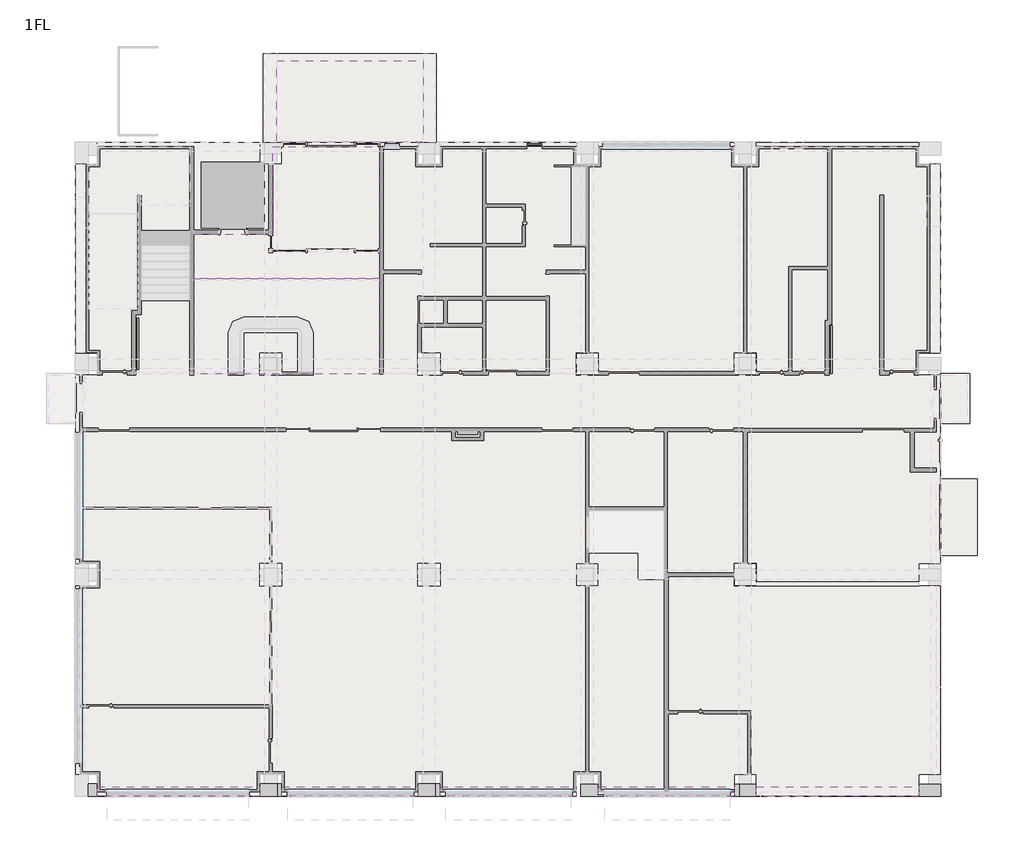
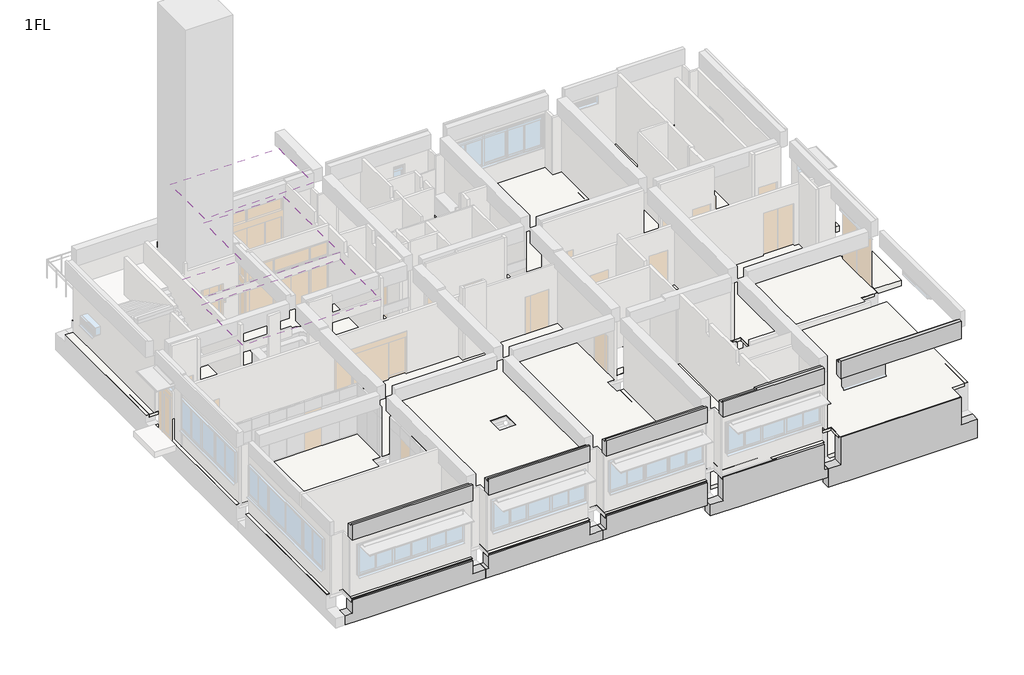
# One storey, part 4 of 7: 10 beams, 9 slabs, 2 coverings, 1 roof.
"""IFC4 building model written with IfcOpenShell, lengths in millimetres."""

from ifc_helpers import new_model, si_unit, frame, origin, place, context, project, spatial, polyline, outline, extrude, faceted_brep, element, save

model = new_model("IFC4")

# Units and contexts
model_context = context("Model", 3, world=origin())
ifc_project = project(units=[si_unit("LENGTHUNIT", "METRE", prefix="MILLI")], contexts=[model_context])

# Site, building, storey
site = spatial("IfcSite", under=ifc_project)
building = spatial("IfcBuilding", under=site)
storey = spatial("IfcBuildingStorey", under=building, Name="1FL", Elevation=0.0)

# Beams
placement = place(None, origin())
element("IfcBeam", 1, ObjectType="営_RC梁 : 2-RG1 350*850", at=placement, inside=storey, context=model_context, shape_type="Brep", body=[
    faceted_brep([(6580.0, -420.0, 4000.0), (6580.0, -420.0, 3150.0), (6580.0, -250.0, 3150.0), (6580.0, -50.0, 3150.0), (6580.0, -50.0, 3850.0), (6580.0, -325.0, 3850.0), (6580.0, -325.0, 4000.0), (420.0, -50.0, 3150.0), (420.0, -250.0, 3150.0), (420.0, -420.0, 3150.0), (420.0, -420.0, 4000.0), (420.0, -325.0, 4000.0), (420.0, -325.0, 3850.0), (420.0, -50.0, 3850.0)], [[[0, 1, 2, 3, 4, 5, 6]], [[7, 8, 9, 10, 11, 12, 13]], [[1, 0, 10, 9]], [[3, 2, 1, 9, 8, 7]], [[3, 7, 13, 4]], [[10, 0, 6, 11]], [[12, 5, 4, 13]], [[5, 12, 11, 6]]]),
])
element("IfcBeam", 2, ObjectType="営_RC梁 : 2-RG1 350*850", at=placement, inside=storey, context=model_context, shape_type="Brep", body=[
    faceted_brep([(12580.0, -420.0, 4000.0), (12580.0, -420.0, 3150.0), (12580.0, -250.0, 3150.0), (12580.0, -50.0, 3150.0), (12580.0, -50.0, 3850.0), (12580.0, -325.0, 3850.0), (12580.0, -325.0, 4000.0), (7420.0, -50.0, 3150.0), (7420.0, -250.0, 3150.0), (7420.0, -420.0, 3150.0), (7420.0, -420.0, 4000.0), (7420.0, -325.0, 4000.0), (7420.0, -325.0, 3850.0), (7420.0, -50.0, 3850.0)], [[[0, 1, 2, 3, 4, 5, 6]], [[7, 8, 9, 10, 11, 12, 13]], [[1, 0, 10, 9]], [[3, 2, 1, 9, 8, 7]], [[3, 7, 13, 4]], [[10, 0, 6, 11]], [[12, 5, 4, 13]], [[5, 12, 11, 6]]]),
])
element("IfcBeam", 3, ObjectType="営_RC梁 : 2-RG1 350*850", at=placement, inside=storey, context=model_context, shape_type="Brep", body=[
    faceted_brep([(18580.0, -420.0, 4000.0), (18580.0, -420.0, 3150.0), (18580.0, -250.0, 3150.0), (18580.0, -50.0, 3150.0), (18580.0, -50.0, 3850.0), (18580.0, -325.0, 3850.0), (18580.0, -325.0, 4000.0), (13420.0, -50.0, 3150.0), (13420.0, -250.0, 3150.0), (13420.0, -420.0, 3150.0), (13420.0, -420.0, 4000.0), (13420.0, -325.0, 4000.0), (13420.0, -325.0, 3850.0), (13420.0, -50.0, 3850.0)], [[[0, 1, 2, 3, 4, 5, 6]], [[7, 8, 9, 10, 11, 12, 13]], [[1, 0, 10, 9]], [[3, 2, 1, 9, 8, 7]], [[3, 7, 13, 4]], [[10, 0, 6, 11]], [[12, 5, 4, 13]], [[5, 12, 11, 6]]]),
])
element("IfcBeam", 4, ObjectType="営_RC梁 : 2-RG1 350*850", at=placement, inside=storey, context=model_context, shape_type="Brep", body=[
    faceted_brep([(24580.0, -420.0, 4000.0), (24580.0, -420.0, 3150.0), (24580.0, -250.0, 3150.0), (24580.0, -50.0, 3150.0), (24580.0, -50.0, 3940.0), (24580.0, -250.0, 3940.0), (24580.0, -250.0, 4000.0), (19420.0, -50.0, 3150.0), (19420.0, -250.0, 3150.0), (19420.0, -420.0, 3150.0), (19420.0, -420.0, 4000.0), (19420.0, -325.0, 4000.0), (19420.0, -325.0, 3850.0), (19420.0, -50.0, 3850.0), (21925.0, -50.0, 3150.0), (22075.0, -50.0, 3150.0), (21200.0, -50.0, 3850.0), (21200.0, -50.0, 3940.0), (21925.0, -50.0, 3940.0), (22075.0, -50.0, 3940.0), (21200.0, -250.0, 4000.0), (21200.0, -325.0, 4000.0), (21200.0, -325.0, 3850.0), (21200.0, -250.0, 3940.0)], [[[0, 1, 2, 3, 4, 5, 6]], [[7, 8, 9, 10, 11, 12, 13]], [[1, 0, 10, 9]], [[3, 2, 1, 9, 8, 7, 14, 15]], [[3, 15, 14, 7, 13, 16, 17, 18, 19, 4]], [[10, 0, 6, 20, 21, 11]], [[22, 16, 13, 12]], [[21, 22, 12, 11]], [[22, 21, 20, 23, 17, 16]], [[23, 5, 4, 19, 18, 17]], [[5, 23, 20, 6]]]),
])
element("IfcBeam", 5, ObjectType="営_RC梁 : 2-RG1 350*850", at=placement, inside=storey, context=model_context, shape_type="Brep", body=[
    faceted_brep([(31580.0, -420.0, 4090.0), (31580.0, -420.0, 4000.0), (31580.0, -420.0, 3150.0), (31580.0, -250.0, 3150.0), (31580.0, -50.0, 3150.0), (31580.0, -50.0, 3940.0), (31580.0, -250.0, 3940.0), (31580.0, -250.0, 4090.0), (25420.0, -50.0, 3150.0), (25420.0, -250.0, 3150.0), (25420.0, -420.0, 3150.0), (25420.0, -420.0, 4000.0), (25420.0, -420.0, 4090.0), (25420.0, -250.0, 4090.0), (25420.0, -250.0, 3940.0), (25420.0, -50.0, 3940.0)], [[[0, 1, 2, 3, 4, 5, 6, 7]], [[8, 9, 10, 11, 12, 13, 14, 15]], [[2, 1, 0, 12, 11, 10]], [[4, 3, 2, 10, 9, 8]], [[4, 8, 15, 5]], [[12, 0, 7, 13]], [[14, 6, 5, 15]], [[6, 14, 13, 7]]]),
])
element("IfcBeam", 6, ObjectType="営_RC梁 : FG1 450*1200", at=placement, inside=storey, context=model_context, shape_type="Brep", body=[
    faceted_brep([(7245.0, -420.0, -800.0), (6580.0, -420.0, -800.0), (6580.0, -420.0, -100.0), (420.0, -420.0, -100.0), (420.0, -420.0, -800.0), (70.0, -420.0, -800.0), (70.0, -420.0, -1300.0), (1350.0, -420.0, -1300.0), (5650.0, -420.0, -1300.0), (7245.0, -420.0, -1300.0), (7245.0, 70.0, -1300.0), (70.0, 70.0, -1300.0), (1350.0, 70.0, -1300.0), (5650.0, 70.0, -1300.0), (6755.0, 70.0, -1300.0), (6580.0, 70.0, -800.0), (6600.0, 70.0, -800.0), (6755.0, 70.0, -800.0), (7245.0, 70.0, -800.0), (70.0, 70.0, -800.0), (400.0, 70.0, -800.0), (420.0, 70.0, -800.0), (420.0, 70.0, -250.0), (6580.0, 70.0, -250.0), (6580.0, -335.0, -100.0), (420.0, -335.0, -100.0), (6580.0, -335.0, -250.0), (420.0, -335.0, -250.0)], [[[0, 1, 2, 3, 4, 5, 6, 7, 8, 9]], [[10, 9, 8, 7, 6, 11, 12, 13, 14]], [[15, 16, 17, 18, 10, 14, 13, 12, 11, 19, 20, 21, 22, 23]], [[3, 2, 24, 25]], [[15, 1, 0, 18, 17, 16]], [[1, 15, 23, 26, 24, 2]], [[4, 21, 20, 19, 5]], [[21, 4, 3, 25, 27, 22]], [[9, 10, 18, 0]], [[6, 5, 19, 11]], [[27, 26, 23, 22]], [[26, 27, 25, 24]]]),
])
element("IfcBeam", 7, ObjectType="営_RC梁 : FG1 450*1200", at=placement, inside=storey, context=model_context, shape_type="Brep", body=[
    faceted_brep([(7420.0, -420.0, -100.0), (7420.0, -420.0, -800.0), (7245.0, -420.0, -800.0), (7245.0, -420.0, -1300.0), (8350.0, -420.0, -1300.0), (11650.0, -420.0, -1300.0), (13245.0, -420.0, -1300.0), (13245.0, -420.0, -800.0), (12580.0, -420.0, -800.0), (12580.0, -420.0, -100.0), (13245.0, 70.0, -1300.0), (7245.0, 70.0, -1300.0), (8350.0, 70.0, -1300.0), (11650.0, 70.0, -1300.0), (12755.0, 70.0, -1300.0), (12580.0, 70.0, -800.0), (12600.0, 70.0, -800.0), (12755.0, 70.0, -800.0), (13245.0, 70.0, -800.0), (7245.0, 70.0, -800.0), (7400.0, 70.0, -800.0), (7420.0, 70.0, -800.0), (7420.0, 70.0, -250.0), (12580.0, 70.0, -250.0), (12580.0, -335.0, -100.0), (7420.0, -335.0, -100.0), (7420.0, -335.0, -250.0), (12580.0, -335.0, -250.0)], [[[0, 1, 2, 3, 4, 5, 6, 7, 8, 9]], [[10, 6, 5, 4, 3, 11, 12, 13, 14]], [[15, 16, 17, 18, 10, 14, 13, 12, 11, 19, 20, 21, 22, 23]], [[0, 9, 24, 25]], [[1, 21, 20, 19, 2]], [[21, 1, 0, 25, 26, 22]], [[15, 8, 7, 18, 17, 16]], [[8, 15, 23, 27, 24, 9]], [[6, 10, 18, 7]], [[3, 2, 19, 11]], [[26, 27, 23, 22]], [[27, 26, 25, 24]]]),
])
element("IfcBeam", 8, ObjectType="営_RC梁 : FG1 450*1200", at=placement, inside=storey, context=model_context, shape_type="Brep", body=[
    faceted_brep([(13420.0, -420.0, -100.0), (13420.0, -420.0, -800.0), (13245.0, -420.0, -800.0), (13245.0, -420.0, -1300.0), (14350.0, -420.0, -1300.0), (18580.0, -420.0, -1300.0), (18580.0, -420.0, -100.0), (18580.0, 70.0, -1300.0), (13245.0, 70.0, -1300.0), (14350.0, 70.0, -1300.0), (13245.0, 70.0, -800.0), (13400.0, 70.0, -800.0), (13420.0, 70.0, -800.0), (13420.0, 70.0, -250.0), (18580.0, 70.0, -250.0), (18580.0, -335.0, -100.0), (13420.0, -335.0, -100.0), (13420.0, -335.0, -250.0), (18580.0, -335.0, -250.0)], [[[0, 1, 2, 3, 4, 5, 6]], [[7, 5, 4, 3, 8, 9]], [[10, 11, 12, 13, 14, 7, 9, 8]], [[0, 6, 15, 16]], [[1, 12, 11, 10, 2]], [[12, 1, 0, 16, 17, 13]], [[6, 5, 7, 14, 18, 15]], [[3, 2, 10, 8]], [[17, 18, 14, 13]], [[18, 17, 16, 15]]]),
])
element("IfcBeam", 9, ObjectType="営_RC梁 : FG3 450*1850", at=placement, inside=storey, context=model_context, shape_type="Brep", body=[
    faceted_brep([(19420.0, -420.0, -1350.0), (18755.0, -420.0, -1350.0), (18755.0, -420.0, -1354.2105263), (18755.0, -420.0, -1950.0), (20350.0, -420.0, -1950.0), (23500.0, -420.0, -1950.0), (24775.0, -420.0, -1950.0), (24775.0, -420.0, -1500.0), (24580.0, -420.0, -1500.0), (24580.0, -420.0, -100.0), (19420.0, -420.0, -100.0), (18755.0, 50.0, -1950.0), (19225.0, 50.0, -1950.0), (20350.0, 50.0, -1950.0), (23500.0, 50.0, -1950.0), (24775.0, 50.0, -1950.0), (18755.0, 50.0, -1350.0), (19225.0, 50.0, -1350.0), (19400.0, 50.0, -1350.0), (19420.0, 50.0, -1350.0), (19420.0, 50.0, -250.0), (22175.0, 50.0, -250.0), (22175.0, 50.0, -160.0), (24580.0, 50.0, -160.0), (24580.0, 50.0, -1500.0), (24600.0, 50.0, -1500.0), (24775.0, 50.0, -1500.0), (24580.0, -250.0, -100.0), (22175.0, -250.0, -100.0), (22175.0, -335.0, -100.0), (19420.0, -335.0, -100.0), (18755.0, -400.0, -1350.0), (19420.0, -335.0, -250.0), (24580.0, -250.0, -160.0), (22175.0, -250.0, -160.0), (22175.0, -335.0, -250.0)], [[[0, 1, 2, 3, 4, 5, 6, 7, 8, 9, 10]], [[3, 11, 12, 13, 14, 15, 6, 5, 4]], [[16, 17, 18, 19, 20, 21, 22, 23, 24, 25, 26, 15, 14, 13, 12, 11]], [[10, 9, 27, 28, 29, 30]], [[11, 3, 2, 1, 31, 16]], [[0, 19, 18, 17, 16, 31, 1]], [[19, 0, 10, 30, 32, 20]], [[26, 7, 6, 15]], [[24, 8, 7, 26, 25]], [[8, 24, 23, 33, 27, 9]], [[33, 23, 22, 34]], [[27, 33, 34, 28]], [[32, 35, 21, 20]], [[35, 29, 28, 34, 22, 21]], [[29, 35, 32, 30]]]),
])
element("IfcBeam", 10, ObjectType="営_RC梁 : FG4 450*2400", at=placement, inside=storey, context=model_context, shape_type="Brep", body=[
    faceted_brep([(24775.0, -420.0, -2500.0), (26500.0, -420.0, -2500.0), (30500.0, -420.0, -2500.0), (32420.0, -420.0, -2500.0), (32420.0, -420.0, -1505.4545455), (32420.0, -420.0, -1500.0), (31580.0, -420.0, -1500.0), (31580.0, -420.0, -10.0), (25420.0, -420.0, -10.0), (25420.0, -420.0, -1500.0), (24775.0, -420.0, -1500.0), (24775.0, -420.0, -1950.0), (24775.0, 50.0, -2500.0), (25225.0, 50.0, -2500.0), (26500.0, 50.0, -2500.0), (30500.0, 50.0, -2500.0), (31950.0, 50.0, -2500.0), (32420.0, 50.0, -2500.0), (24775.0, 50.0, -1950.0), (24775.0, 50.0, -1500.0), (25225.0, 50.0, -1500.0), (25400.0, 50.0, -1500.0), (25420.0, 50.0, -1500.0), (25420.0, 50.0, -160.0), (31580.0, 50.0, -160.0), (31580.0, 50.0, -1500.0), (31600.0, 50.0, -1500.0), (31950.0, 50.0, -1500.0), (32420.0, 50.0, -1500.0), (31580.0, -250.0, -10.0), (25420.0, -250.0, -10.0), (25420.0, -250.0, -160.0), (31580.0, -250.0, -160.0)], [[[0, 1, 2, 3, 4, 5, 6, 7, 8, 9, 10, 11]], [[0, 12, 13, 14, 15, 16, 17, 3, 2, 1]], [[17, 16, 15, 14, 13, 12, 18, 19, 20, 21, 22, 23, 24, 25, 26, 27, 28]], [[8, 7, 29, 30]], [[22, 9, 8, 30, 31, 23]], [[6, 25, 24, 32, 29, 7]], [[12, 0, 11, 10, 19, 18]], [[3, 17, 28, 5, 4]], [[9, 22, 21, 20, 19, 10]], [[25, 6, 5, 28, 27, 26]], [[31, 32, 24, 23]], [[32, 31, 30, 29]]]),
])

# Coverings
element("IfcCovering", 11, ObjectType="S2_天井", at=placement, inside=storey, context=model_context, shape_type="SweptSolid", body=[
    extrude(outline(polyline([(11140.0, 15615.0), (4075.0, 15615.0), (4075.0, 19240.0), (11140.0, 19240.0), (11140.0, 15615.0)])), frame((0.0, 0.0, 2700.0), z_axis=(0.0, 0.0, 1.0), x_axis=(1.0, 0.0, 0.0)), (0.0, 0.0, 1.0), 100.0),
])
element("IfcCovering", 12, ObjectType="S2_天井", at=placement, inside=storey, context=model_context, shape_type="SweptSolid", body=[
    extrude(outline(polyline([(11140.0, 19240.0), (4075.0, 19240.0), (4075.0, 20925.0), (7075.0, 20925.0), (7075.0, 24250.0), (11140.0, 24250.0), (11140.0, 19240.0)])), frame((0.0, 0.0, 3050.0), z_axis=(0.0, 0.0, 1.0), x_axis=(1.0, 0.0, 0.0)), (0.0, 0.0, 1.0), 100.0),
])

# Roof
element("IfcRoof", 13, ObjectType="(屋根)RC_t150", at=placement, inside=storey, context=model_context, shape_type="SweptSolid", body=[
    extrude(outline(polyline([(24420.0, 3100.0), (24420.0, 3250.2785932), (27500.0, 3438.0834712), (27500.0, 3287.804878), (24420.0, 3100.0)])), frame((7225.0, 0.0, 0.0), z_axis=(1.0, 0.0, 0.0), x_axis=(0.0, 1.0, 0.0)), (0.0, 0.0, 1.0), 5550.0),
])

# Slabs
element("IfcSlab", 14, ObjectType="(外床)エントランス 300", at=placement, inside=storey, context=model_context, shape_type="SweptSolid", body=[
    extrude(outline(polyline([(13270.0, 27775.0), (13270.0, 24420.0), (6715.3987464, 24420.0), (6715.3987464, 27775.0), (13270.0, 27775.0)])), frame((0.0, 0.0, -300.0), z_axis=(0.0, 0.0, 1.0), x_axis=(1.0, 0.0, 0.0)), (0.0, 0.0, 1.0), 300.0),
])
element("IfcSlab", 15, ObjectType="(内床)仕上げ", at=placement, inside=storey, context=model_context, shape_type="SweptSolid", body=[
    extrude(outline(polyline([(20925.0, 8800.0), (20925.0, 7800.0), (21925.0, 7800.0), (21925.0, -250.0), (19420.0, -250.0), (19420.0, 420.0), (19060.0, 420.0), (19060.0, 7580.0), (19420.0, 7580.0), (19420.0, 8420.0), (19060.0, 8420.0), (19060.0, 8800.0), (20925.0, 8800.0)])), frame((0.0, 0.0, 190.0), z_axis=(0.0, 0.0, 1.0), x_axis=(1.0, 0.0, 0.0)), (0.0, 0.0, 1.0), 10.0),
])
element("IfcSlab", 16, ObjectType="(内床)仕上げ", at=placement, inside=storey, context=model_context, shape_type="Brep", body=[
    faceted_brep([(21925.0, -400.0, -10.0), (21925.0, 10440.0, -10.0), (19060.0, 10440.0, -10.0), (19060.0, 8420.0, -10.0), (18580.0, 8420.0, -10.0), (18580.0, 7580.0, -10.0), (18755.0, 7580.0, -10.0), (19060.0, 7580.0, -10.0), (19060.0, 420.0, -10.0), (18755.0, 420.0, -10.0), (18580.0, 420.0, -10.0), (18580.0, -400.0, -10.0), (13420.0, -400.0, -10.0), (13420.0, 420.0, -10.0), (12580.0, 420.0, -10.0), (12580.0, -400.0, -10.0), (7420.0, -400.0, -10.0), (7420.0, 420.0, -10.0), (6580.0, 420.0, -10.0), (6580.0, -400.0, -10.0), (420.0, -400.0, -10.0), (420.0, 420.0, -10.0), (-400.0, 420.0, -10.0), (-400.0, 7580.0, -10.0), (420.0, 7580.0, -10.0), (420.0, 8420.0, -10.0), (-400.0, 8420.0, -10.0), (-400.0, 15580.0, -10.0), (420.0, 15580.0, -10.0), (420.0, 16420.0, -10.0), (-400.0, 16420.0, -10.0), (-400.0, 23580.0, -10.0), (420.0, 23580.0, -10.0), (420.0, 24400.0, -10.0), (6580.0, 24400.0, -10.0), (6580.0, 23580.0, -10.0), (7420.0, 23580.0, -10.0), (7420.0, 24400.0, -10.0), (12580.0, 24400.0, -10.0), (12580.0, 23580.0, -10.0), (13420.0, 23580.0, -10.0), (13420.0, 24400.0, -10.0), (18580.0, 24400.0, -10.0), (18580.0, 23580.0, -10.0), (19420.0, 23580.0, -10.0), (19420.0, 24400.0, -10.0), (24580.0, 24400.0, -10.0), (24580.0, 23580.0, -10.0), (25420.0, 23580.0, -10.0), (25420.0, 24400.0, -10.0), (31580.0, 24400.0, -10.0), (31580.0, 23580.0, -10.0), (32400.0, 23580.0, -10.0), (32400.0, 16420.0, -10.0), (31580.0, 16420.0, -10.0), (31580.0, 15580.0, -10.0), (32400.0, 15580.0, -10.0), (32400.0, 8420.0, -10.0), (31580.0, 8420.0, -10.0), (31580.0, 7580.0, -10.0), (32400.0, 7580.0, -10.0), (32400.0, 420.0, -10.0), (31580.0, 420.0, -10.0), (31580.0, -400.0, -10.0), (25420.0, -400.0, -10.0), (25420.0, 420.0, -10.0), (24580.0, 420.0, -10.0), (24580.0, -400.0, -10.0), (7420.0, 7580.0, -10.0), (7420.0, 8420.0, -10.0), (6580.0, 8420.0, -10.0), (6580.0, 7580.0, -10.0), (13420.0, 7580.0, -10.0), (13420.0, 8420.0, -10.0), (12580.0, 8420.0, -10.0), (12580.0, 7580.0, -10.0), (25420.0, 7580.0, -10.0), (25420.0, 8420.0, -10.0), (24580.0, 8420.0, -10.0), (24580.0, 7580.0, -10.0), (7420.0, 15580.0, -10.0), (7420.0, 16420.0, -10.0), (6580.0, 16420.0, -10.0), (6580.0, 15580.0, -10.0), (13420.0, 15580.0, -10.0), (13420.0, 16420.0, -10.0), (12580.0, 16420.0, -10.0), (12580.0, 15580.0, -10.0), (19420.0, 15580.0, -10.0), (19420.0, 16420.0, -10.0), (18580.0, 16420.0, -10.0), (18580.0, 15580.0, -10.0), (25420.0, 15580.0, -10.0), (25420.0, 16420.0, -10.0), (24580.0, 16420.0, -10.0), (24580.0, 15580.0, -10.0), (21925.0, 10440.0, 0.0), (21925.0, -400.0, 0.0), (24580.0, -400.0, 0.0), (24580.0, 420.0, 0.0), (25420.0, 420.0, 0.0), (25420.0, -400.0, 0.0), (31580.0, -400.0, 0.0), (31580.0, 420.0, 0.0), (32400.0, 420.0, 0.0), (32400.0, 7580.0, 0.0), (31580.0, 7580.0, 0.0), (31580.0, 8420.0, 0.0), (32400.0, 8420.0, 0.0), (32400.0, 15580.0, 0.0), (31580.0, 15580.0, 0.0), (31580.0, 16420.0, 0.0), (32400.0, 16420.0, 0.0), (32400.0, 23580.0, 0.0), (31580.0, 23580.0, 0.0), (31580.0, 24400.0, 0.0), (25420.0, 24400.0, 0.0), (25420.0, 23580.0, 0.0), (24580.0, 23580.0, 0.0), (24580.0, 24400.0, 0.0), (19420.0, 24400.0, 0.0), (19420.0, 23580.0, 0.0), (18580.0, 23580.0, 0.0), (18580.0, 24400.0, 0.0), (13420.0, 24400.0, 0.0), (13420.0, 23580.0, 0.0), (12580.0, 23580.0, 0.0), (12580.0, 24400.0, 0.0), (7420.0, 24400.0, 0.0), (7420.0, 23580.0, 0.0), (6580.0, 23580.0, 0.0), (6580.0, 24400.0, 0.0), (420.0, 24400.0, 0.0), (420.0, 23580.0, 0.0), (-400.0, 23580.0, 0.0), (-400.0, 16420.0, 0.0), (420.0, 16420.0, 0.0), (420.0, 15580.0, 0.0), (-400.0, 15580.0, 0.0), (-400.0, 8420.0, 0.0), (420.0, 8420.0, 0.0), (420.0, 7580.0, 0.0), (-400.0, 7580.0, 0.0), (-400.0, 420.0, 0.0), (420.0, 420.0, 0.0), (420.0, -400.0, 0.0), (6580.0, -400.0, 0.0), (6580.0, 420.0, 0.0), (7420.0, 420.0, 0.0), (7420.0, -400.0, 0.0), (12580.0, -400.0, 0.0), (12580.0, 420.0, 0.0), (13420.0, 420.0, 0.0), (13420.0, -400.0, 0.0), (18580.0, -400.0, 0.0), (18580.0, 420.0, 0.0), (19060.0, 420.0, 0.0), (19060.0, 7580.0, 0.0), (18580.0, 7580.0, 0.0), (18580.0, 8420.0, 0.0), (19060.0, 8420.0, 0.0), (19060.0, 10440.0, 0.0), (7420.0, 8420.0, 0.0), (7420.0, 7580.0, 0.0), (6580.0, 7580.0, 0.0), (6580.0, 8420.0, 0.0), (13420.0, 8420.0, 0.0), (13420.0, 7580.0, 0.0), (12580.0, 7580.0, 0.0), (12580.0, 8420.0, 0.0), (25420.0, 8420.0, 0.0), (25420.0, 7580.0, 0.0), (24580.0, 7580.0, 0.0), (24580.0, 8420.0, 0.0), (7420.0, 16420.0, 0.0), (7420.0, 15580.0, 0.0), (6580.0, 15580.0, 0.0), (6580.0, 16420.0, 0.0), (13420.0, 16420.0, 0.0), (13420.0, 15580.0, 0.0), (12580.0, 15580.0, 0.0), (12580.0, 16420.0, 0.0), (19420.0, 16420.0, 0.0), (19420.0, 15580.0, 0.0), (18580.0, 15580.0, 0.0), (18580.0, 16420.0, 0.0), (25420.0, 16420.0, 0.0), (25420.0, 15580.0, 0.0), (24580.0, 15580.0, 0.0), (24580.0, 16420.0, 0.0)], [[[0, 1, 2, 3, 4, 5, 6, 7, 8, 9, 10, 11, 12, 13, 14, 15, 16, 17, 18, 19, 20, 21, 22, 23, 24, 25, 26, 27, 28, 29, 30, 31, 32, 33, 34, 35, 36, 37, 38, 39, 40, 41, 42, 43, 44, 45, 46, 47, 48, 49, 50, 51, 52, 53, 54, 55, 56, 57, 58, 59, 60, 61, 62, 63, 64, 65, 66, 67], [68, 69, 70, 71], [72, 73, 74, 75], [76, 77, 78, 79], [80, 81, 82, 83], [84, 85, 86, 87], [88, 89, 90, 91], [92, 93, 94, 95]], [[96, 97, 98, 99, 100, 101, 102, 103, 104, 105, 106, 107, 108, 109, 110, 111, 112, 113, 114, 115, 116, 117, 118, 119, 120, 121, 122, 123, 124, 125, 126, 127, 128, 129, 130, 131, 132, 133, 134, 135, 136, 137, 138, 139, 140, 141, 142, 143, 144, 145, 146, 147, 148, 149, 150, 151, 152, 153, 154, 155, 156, 157, 158, 159, 160, 161], [162, 163, 164, 165], [166, 167, 168, 169], [170, 171, 172, 173], [174, 175, 176, 177], [178, 179, 180, 181], [182, 183, 184, 185], [186, 187, 188, 189]], [[104, 61, 60, 105]], [[108, 57, 56, 109]], [[112, 53, 52, 113]], [[97, 0, 67, 98]], [[101, 64, 63, 102]], [[22, 143, 142, 23]], [[26, 139, 138, 27]], [[30, 135, 134, 31]], [[37, 128, 127, 38]], [[131, 34, 33, 132]], [[41, 124, 123, 42]], [[45, 120, 119, 46]], [[49, 116, 115, 50]], [[1, 0, 97, 96]], [[2, 1, 96, 161]], [[2, 161, 160, 3]], [[156, 8, 7, 157]], [[149, 16, 15, 150]], [[19, 146, 145, 20]], [[153, 12, 11, 154]], [[148, 17, 16, 149]], [[18, 147, 146, 19]], [[147, 18, 17, 148]], [[152, 13, 12, 153]], [[14, 151, 150, 15]], [[151, 14, 13, 152]], [[10, 155, 154, 11]], [[155, 10, 9, 8, 156]], [[100, 65, 64, 101]], [[66, 99, 98, 67]], [[99, 66, 65, 100]], [[62, 103, 102, 63]], [[103, 62, 61, 104]], [[144, 21, 20, 145]], [[21, 144, 143, 22]], [[68, 163, 162, 69]], [[163, 68, 71, 164]], [[164, 71, 70, 165]], [[165, 70, 69, 162]], [[72, 167, 166, 73]], [[167, 72, 75, 168]], [[168, 75, 74, 169]], [[169, 74, 73, 166]], [[5, 158, 157, 7, 6]], [[158, 5, 4, 159]], [[159, 4, 3, 160]], [[76, 171, 170, 77]], [[171, 76, 79, 172]], [[172, 79, 78, 173]], [[173, 78, 77, 170]], [[59, 106, 105, 60]], [[106, 59, 58, 107]], [[107, 58, 57, 108]], [[24, 141, 140, 25]], [[141, 24, 23, 142]], [[25, 140, 139, 26]], [[80, 175, 174, 81]], [[175, 80, 83, 176]], [[176, 83, 82, 177]], [[177, 82, 81, 174]], [[84, 179, 178, 85]], [[179, 84, 87, 180]], [[180, 87, 86, 181]], [[181, 86, 85, 178]], [[88, 183, 182, 89]], [[183, 88, 91, 184]], [[184, 91, 90, 185]], [[185, 90, 89, 182]], [[92, 187, 186, 93]], [[187, 92, 95, 188]], [[188, 95, 94, 189]], [[189, 94, 93, 186]], [[55, 110, 109, 56]], [[110, 55, 54, 111]], [[111, 54, 53, 112]], [[28, 137, 136, 29]], [[137, 28, 27, 138]], [[29, 136, 135, 30]], [[36, 129, 128, 37]], [[129, 36, 35, 130]], [[130, 35, 34, 131]], [[40, 125, 124, 41]], [[125, 40, 39, 126]], [[126, 39, 38, 127]], [[44, 121, 120, 45]], [[121, 44, 43, 122]], [[122, 43, 42, 123]], [[48, 117, 116, 49]], [[117, 48, 47, 118]], [[118, 47, 46, 119]], [[51, 114, 113, 52]], [[114, 51, 50, 115]], [[32, 133, 132, 33]], [[133, 32, 31, 134]]]),
])
element("IfcSlab", 17, ObjectType="(外床)エントランス 300", at=placement, inside=storey, context=model_context, shape_type="SweptSolid", body=[
    extrude(outline(polyline([(32420.0, 15630.0), (33505.0, 15630.0), (33505.0, 13730.0), (32420.0, 13730.0), (32420.0, 15630.0)])), frame((0.0, 0.0, -300.0), z_axis=(0.0, 0.0, 1.0), x_axis=(1.0, 0.0, 0.0)), (0.0, 0.0, 1.0), 300.0),
])
element("IfcSlab", 18, ObjectType="(外床)エントランス 300", at=placement, inside=storey, context=model_context, shape_type="SweptSolid", body=[
    extrude(outline(polyline([(32420.0, 11630.0), (33805.0, 11630.0), (33805.0, 8730.0), (32420.0, 8730.0), (32420.0, 11630.0)])), frame((0.0, 0.0, -300.0), z_axis=(0.0, 0.0, 1.0), x_axis=(1.0, 0.0, 0.0)), (0.0, 0.0, 1.0), 300.0),
])
element("IfcSlab", 19, ObjectType="(RC)150", at=placement, inside=storey, context=model_context, shape_type="Brep", body=[
    faceted_brep([(4075.0, 24250.0, -160.0), (4075.0, 23930.0, -160.0), (4075.0, 21075.0, -160.0), (4124.0, 21075.0, -160.0), (4514.0, 21075.0, -160.0), (6755.0, 21075.0, -160.0), (6925.0, 21075.0, -160.0), (6925.0, 23580.0, -160.0), (7225.0, 23580.0, -160.0), (7420.0, 23580.0, -160.0), (7420.0, 23950.0, -160.0), (7420.0, 24250.0, -160.0), (12580.0, 24250.0, -160.0), (12580.0, 23950.0, -160.0), (12580.0, 23580.0, -160.0), (12775.0, 23580.0, -160.0), (13225.0, 23580.0, -160.0), (13420.0, 23580.0, -160.0), (13420.0, 23950.0, -160.0), (13420.0, 24250.0, -160.0), (18580.0, 24250.0, -160.0), (18580.0, 23950.0, -160.0), (18580.0, 23580.0, -160.0), (18775.0, 23580.0, -160.0), (19000.0, 23580.0, -160.0), (19000.0, 16420.0, -160.0), (18775.0, 16420.0, -160.0), (18580.0, 16420.0, -160.0), (18580.0, 16225.0, -160.0), (18580.0, 15755.0, -160.0), (18580.0, 15580.0, -160.0), (18755.0, 15580.0, -160.0), (19245.0, 15580.0, -160.0), (19420.0, 15580.0, -160.0), (19420.0, 15640.0, -160.0), (24580.0, 15640.0, -160.0), (24580.0, 15580.0, -160.0), (24755.0, 15580.0, -160.0), (25225.0, 15580.0, -160.0), (25420.0, 15580.0, -160.0), (25420.0, 15775.0, -160.0), (25420.0, 16245.0, -160.0), (25420.0, 16420.0, -160.0), (25225.0, 16420.0, -160.0), (25000.0, 16420.0, -160.0), (25000.0, 23580.0, -160.0), (25225.0, 23580.0, -160.0), (25420.0, 23580.0, -160.0), (25420.0, 23930.0, -160.0), (25420.0, 24250.0, -160.0), (31580.0, 24250.0, -160.0), (31580.0, 23930.0, -160.0), (31580.0, 23580.0, -160.0), (31930.0, 23580.0, -160.0), (32250.0, 23580.0, -160.0), (32250.0, 16420.0, -160.0), (31930.0, 16420.0, -160.0), (31580.0, 16420.0, -160.0), (31580.0, 16245.0, -160.0), (31580.0, 15775.0, -160.0), (31580.0, 15580.0, -160.0), (31950.0, 15580.0, -160.0), (32250.0, 15580.0, -160.0), (32250.0, 13555.0, -160.0), (32250.0, 8420.0, -160.0), (31950.0, 8420.0, -160.0), (31580.0, 8420.0, -160.0), (31580.0, 8225.0, -160.0), (31580.0, 7775.0, -160.0), (31580.0, 7580.0, -160.0), (31950.0, 7580.0, -160.0), (32250.0, 7580.0, -160.0), (32250.0, 420.0, -160.0), (31950.0, 420.0, -160.0), (31580.0, 420.0, -160.0), (31580.0, 50.0, -160.0), (31580.0, -250.0, -160.0), (25420.0, -250.0, -160.0), (25420.0, 50.0, -160.0), (25420.0, 420.0, -160.0), (25225.0, 420.0, -160.0), (24775.0, 420.0, -160.0), (24580.0, 420.0, -160.0), (24580.0, 50.0, -160.0), (24580.0, -250.0, -160.0), (22175.0, -250.0, -160.0), (22175.0, 50.0, -160.0), (22175.0, 2485.0, -160.0), (22175.0, 2835.0, -160.0), (22175.0, 5158.0, -160.0), (22175.0, 5508.0, -160.0), (22175.0, 7775.0, -160.0), (22175.0, 7825.0, -160.0), (24580.0, 7825.0, -160.0), (24580.0, 7775.0, -160.0), (24580.0, 7580.0, -160.0), (24775.0, 7580.0, -160.0), (25225.0, 7580.0, -160.0), (25420.0, 7580.0, -160.0), (25420.0, 7775.0, -160.0), (25420.0, 8225.0, -160.0), (25420.0, 8420.0, -160.0), (25225.0, 8420.0, -160.0), (25175.0, 8420.0, -160.0), (25175.0, 13500.0, -160.0), (24755.0, 13500.0, -160.0), (19245.0, 13500.0, -160.0), (19000.0, 13500.0, -160.0), (18755.0, 13500.0, -160.0), (13245.0, 13500.0, -160.0), (12755.0, 13500.0, -160.0), (7245.0, 13500.0, -160.0), (6755.0, 13500.0, -160.0), (70.0, 13500.0, -160.0), (-250.0, 13500.0, -160.0), (-250.0, 15580.0, -160.0), (70.0, 15580.0, -160.0), (420.0, 15580.0, -160.0), (420.0, 15755.0, -160.0), (420.0, 16245.0, -160.0), (420.0, 16420.0, -160.0), (70.0, 16420.0, -160.0), (-250.0, 16420.0, -160.0), (-250.0, 23580.0, -160.0), (70.0, 23580.0, -160.0), (420.0, 23580.0, -160.0), (420.0, 23930.0, -160.0), (420.0, 24250.0, -160.0), (7420.0, 15580.0, -160.0), (7420.0, 15755.0, -160.0), (7420.0, 16225.0, -160.0), (7420.0, 16420.0, -160.0), (7225.0, 16420.0, -160.0), (6755.0, 16420.0, -160.0), (6580.0, 16420.0, -160.0), (6580.0, 16245.0, -160.0), (6580.0, 15755.0, -160.0), (6580.0, 15580.0, -160.0), (6755.0, 15580.0, -160.0), (7245.0, 15580.0, -160.0), (13420.0, 15580.0, -160.0), (13420.0, 15755.0, -160.0), (13420.0, 16225.0, -160.0), (13420.0, 16420.0, -160.0), (13225.0, 16420.0, -160.0), (12775.0, 16420.0, -160.0), (12580.0, 16420.0, -160.0), (12580.0, 16225.0, -160.0), (12580.0, 15755.0, -160.0), (12580.0, 15580.0, -160.0), (12755.0, 15580.0, -160.0), (13245.0, 15580.0, -160.0), (4075.0, 21075.0, -10.0), (4075.0, 23930.0, -10.0), (4075.0, 24250.0, -10.0), (420.0, 24250.0, -10.0), (420.0, 23580.0, -10.0), (-250.0, 23580.0, -10.0), (-250.0, 16420.0, -10.0), (420.0, 16420.0, -10.0), (420.0, 15580.0, -10.0), (-250.0, 15580.0, -10.0), (-250.0, 13500.0, -10.0), (24987.3, 13500.0, -10.0), (25000.0, 13500.0, -10.0), (25000.0, 13325.0, -10.0), (25000.0, 10925.0, -10.0), (25000.0, 10575.0, -10.0), (25000.0, 8420.0, -10.0), (25420.0, 8420.0, -10.0), (25420.0, 7730.0, -10.0), (25420.0, 7580.0, -10.0), (24580.0, 7580.0, -10.0), (24580.0, 8000.0, -10.0), (21925.0, 8000.0, -10.0), (21925.0, -250.0, -10.0), (24580.0, -250.0, -10.0), (24580.0, 420.0, -10.0), (25420.0, 420.0, -10.0), (25420.0, -250.0, -10.0), (31580.0, -250.0, -10.0), (31580.0, 420.0, -10.0), (32250.0, 420.0, -10.0), (32250.0, 7580.0, -10.0), (31580.0, 7580.0, -10.0), (31580.0, 7730.0, -10.0), (31580.0, 8420.0, -10.0), (32250.0, 8420.0, -10.0), (32250.0, 13555.0, -10.0), (32250.0, 15580.0, -10.0), (31580.0, 15580.0, -10.0), (31580.0, 16420.0, -10.0), (32250.0, 16420.0, -10.0), (32250.0, 23580.0, -10.0), (31580.0, 23580.0, -10.0), (31580.0, 24250.0, -10.0), (25420.0, 24250.0, -10.0), (25420.0, 23580.0, -10.0), (25000.0, 23580.0, -10.0), (25000.0, 16420.0, -10.0), (25420.0, 16420.0, -10.0), (25420.0, 15580.0, -10.0), (24580.0, 15580.0, -10.0), (24580.0, 15640.0, -10.0), (19420.0, 15640.0, -10.0), (19420.0, 15580.0, -10.0), (18580.0, 15580.0, -10.0), (18580.0, 16420.0, -10.0), (19000.0, 16420.0, -10.0), (19000.0, 23580.0, -10.0), (18580.0, 23580.0, -10.0), (18580.0, 24250.0, -10.0), (13420.0, 24250.0, -10.0), (13420.0, 23580.0, -10.0), (12580.0, 23580.0, -10.0), (12580.0, 24250.0, -10.0), (7420.0, 24250.0, -10.0), (7420.0, 23580.0, -10.0), (6925.0, 23580.0, -10.0), (6925.0, 21075.0, -10.0), (6755.0, 21075.0, -10.0), (4514.0, 21075.0, -10.0), (4124.0, 21075.0, -10.0), (7420.0, 16420.0, -10.0), (7420.0, 15580.0, -10.0), (6580.0, 15580.0, -10.0), (6580.0, 16420.0, -10.0), (13420.0, 16420.0, -10.0), (13420.0, 15580.0, -10.0), (12580.0, 15580.0, -10.0), (12580.0, 16420.0, -10.0), (19000.0, 16420.0, -100.0), (19000.0, 23580.0, -100.0), (19420.0, 15640.0, -100.0), (24580.0, 15640.0, -100.0), (25000.0, 16420.0, -100.0), (25000.0, 23580.0, -100.0), (21925.0, -250.0, -100.0), (22175.0, -250.0, -100.0), (24580.0, -250.0, -100.0), (21925.0, 8000.0, -100.0), (24580.0, 8000.0, -100.0), (25000.0, 13500.0, -100.0), (25000.0, 13325.0, -100.0), (25000.0, 10925.0, -100.0), (25000.0, 10575.0, -100.0), (25000.0, 8420.0, -100.0), (-250.0, 13500.0, -100.0), (25175.0, 13500.0, -100.0), (-250.0, 15580.0, -100.0), (22175.0, 7825.0, -100.0), (24580.0, 7825.0, -100.0), (25175.0, 8420.0, -100.0)], [[[0, 1, 2, 3, 4, 5, 6, 7, 8, 9, 10, 11, 12, 13, 14, 15, 16, 17, 18, 19, 20, 21, 22, 23, 24, 25, 26, 27, 28, 29, 30, 31, 32, 33, 34, 35, 36, 37, 38, 39, 40, 41, 42, 43, 44, 45, 46, 47, 48, 49, 50, 51, 52, 53, 54, 55, 56, 57, 58, 59, 60, 61, 62, 63, 64, 65, 66, 67, 68, 69, 70, 71, 72, 73, 74, 75, 76, 77, 78, 79, 80, 81, 82, 83, 84, 85, 86, 87, 88, 89, 90, 91, 92, 93, 94, 95, 96, 97, 98, 99, 100, 101, 102, 103, 104, 105, 106, 107, 108, 109, 110, 111, 112, 113, 114, 115, 116, 117, 118, 119, 120, 121, 122, 123, 124, 125, 126, 127], [128, 129, 130, 131, 132, 133, 134, 135, 136, 137, 138, 139], [140, 141, 142, 143, 144, 145, 146, 147, 148, 149, 150, 151]], [[152, 153, 154, 155, 156, 157, 158, 159, 160, 161, 162, 163, 164, 165, 166, 167, 168, 169, 170, 171, 172, 173, 174, 175, 176, 177, 178, 179, 180, 181, 182, 183, 184, 185, 186, 187, 188, 189, 190, 191, 192, 193, 194, 195, 196, 197, 198, 199, 200, 201, 202, 203, 204, 205, 206, 207, 208, 209, 210, 211, 212, 213, 214, 215, 216, 217, 218, 219, 220, 221, 222], [223, 224, 225, 226], [227, 228, 229, 230]], [[2, 1, 0, 154, 153, 152]], [[6, 5, 4, 3, 2, 152, 222, 221, 220, 219]], [[6, 219, 218, 7]], [[11, 216, 215, 12]], [[19, 212, 211, 20]], [[208, 231, 25, 24, 232, 209]], [[34, 233, 204, 203, 234, 35]], [[44, 235, 199, 198, 236, 45]], [[49, 196, 195, 50]], [[188, 63, 62, 189]], [[192, 55, 54, 193]], [[63, 188, 187, 64]], [[182, 72, 71, 183]], [[175, 237, 238, 85, 84, 239, 176]], [[179, 77, 76, 180]], [[175, 174, 240, 237]], [[240, 174, 173, 241]], [[164, 242, 243, 244, 245, 246, 168, 167, 166, 165]], [[164, 163, 162, 247, 114, 113, 112, 111, 110, 109, 108, 107, 106, 105, 104, 248, 242]], [[114, 247, 162, 161, 249, 115]], [[122, 158, 157, 123]], [[154, 0, 127, 155]], [[250, 238, 237, 240, 241, 251]], [[242, 248, 252, 246, 245, 244, 243]], [[248, 104, 103, 252]], [[92, 250, 251, 93]], [[250, 92, 91, 90, 89, 88, 87, 86, 85, 238]], [[178, 79, 78, 77, 179]], [[82, 177, 176, 239, 84, 83]], [[177, 82, 81, 80, 79, 178]], [[74, 181, 180, 76, 75]], [[181, 74, 73, 72, 182]], [[98, 171, 170, 169, 101, 100, 99]], [[171, 98, 97, 96, 95, 172]], [[172, 95, 94, 93, 251, 241, 173]], [[101, 169, 168, 246, 252, 103, 102]], [[69, 184, 183, 71, 70]], [[184, 69, 68, 67, 66, 186, 185]], [[186, 66, 65, 64, 187]], [[128, 224, 223, 131, 130, 129]], [[224, 128, 139, 138, 137, 225]], [[225, 137, 136, 135, 134, 226]], [[226, 134, 133, 132, 131, 223]], [[140, 228, 227, 143, 142, 141]], [[228, 140, 151, 150, 149, 229]], [[229, 149, 148, 147, 146, 230]], [[230, 146, 145, 144, 143, 227]], [[33, 205, 204, 233, 34]], [[205, 33, 32, 31, 30, 206]], [[206, 30, 29, 28, 27, 207]], [[207, 27, 26, 25, 231, 208]], [[39, 201, 200, 42, 41, 40]], [[201, 39, 38, 37, 36, 202]], [[202, 36, 35, 234, 203]], [[42, 200, 199, 235, 44, 43]], [[60, 190, 189, 62, 61]], [[190, 60, 59, 58, 57, 191]], [[191, 57, 56, 55, 192]], [[117, 160, 159, 120, 119, 118]], [[160, 117, 116, 115, 249, 161]], [[120, 159, 158, 122, 121]], [[9, 217, 216, 11, 10]], [[217, 9, 8, 7, 218]], [[17, 213, 212, 19, 18]], [[213, 17, 16, 15, 14, 214]], [[214, 14, 13, 12, 215]], [[22, 210, 209, 232, 24, 23]], [[210, 22, 21, 20, 211]], [[47, 197, 196, 49, 48]], [[197, 47, 46, 45, 236, 198]], [[52, 194, 193, 54, 53]], [[194, 52, 51, 50, 195]], [[125, 156, 155, 127, 126]], [[156, 125, 124, 123, 157]]]),
])
element("IfcSlab", 20, ObjectType="(RC)200", at=placement, inside=storey, context=model_context, shape_type="Brep", body=[
    faceted_brep([(7225.0, 17650.0, -1950.0), (7225.0, 22500.0, -1950.0), (8500.0, 22500.0, -1950.0), (8500.0, 23950.0, -1950.0), (11650.0, 23950.0, -1950.0), (11650.0, 22650.0, -1950.0), (12775.0, 22650.0, -1950.0), (12775.0, 17650.0, -1950.0), (11350.0, 17650.0, -1950.0), (11350.0, 16225.0, -1950.0), (8650.0, 16225.0, -1950.0), (8650.0, 17650.0, -1950.0), (7225.0, 17650.0, -1750.0), (8650.0, 17650.0, -1750.0), (8650.0, 16225.0, -1750.0), (11350.0, 16225.0, -1750.0), (11350.0, 17650.0, -1750.0), (12775.0, 17650.0, -1750.0), (12775.0, 22650.0, -1750.0), (11650.0, 22650.0, -1750.0), (11650.0, 23950.0, -1750.0), (8500.0, 23950.0, -1750.0), (8500.0, 22500.0, -1750.0), (7225.0, 22500.0, -1750.0)], [[[0, 1, 2, 3, 4, 5, 6, 7, 8, 9, 10, 11]], [[12, 13, 14, 15, 16, 17, 18, 19, 20, 21, 22, 23]], [[1, 0, 12, 23]], [[2, 1, 23, 22]], [[3, 2, 22, 21]], [[4, 3, 21, 20]], [[5, 4, 20, 19]], [[6, 5, 19, 18]], [[7, 6, 18, 17]], [[8, 7, 17, 16]], [[9, 8, 16, 15]], [[10, 9, 15, 14]], [[11, 10, 14, 13]], [[0, 11, 13, 12]]]),
    faceted_brep([(14650.0, 17650.0, -1950.0), (13225.0, 17650.0, -1950.0), (13225.0, 22650.0, -1950.0), (14350.0, 22650.0, -1950.0), (14350.0, 23950.0, -1950.0), (17650.0, 23950.0, -1950.0), (17650.0, 22650.0, -1950.0), (18775.0, 22650.0, -1950.0), (18775.0, 17650.0, -1950.0), (17350.0, 17650.0, -1950.0), (17350.0, 16225.0, -1950.0), (14650.0, 16225.0, -1950.0), (14650.0, 17650.0, -1750.0), (14650.0, 16225.0, -1750.0), (17350.0, 16225.0, -1750.0), (17350.0, 17650.0, -1750.0), (18775.0, 17650.0, -1750.0), (18775.0, 22650.0, -1750.0), (17650.0, 22650.0, -1750.0), (17650.0, 23950.0, -1750.0), (14350.0, 23950.0, -1750.0), (14350.0, 22650.0, -1750.0), (13225.0, 22650.0, -1750.0), (13225.0, 17650.0, -1750.0)], [[[0, 1, 2, 3, 4, 5, 6, 7, 8, 9, 10, 11]], [[12, 13, 14, 15, 16, 17, 18, 19, 20, 21, 22, 23]], [[1, 0, 12, 23]], [[2, 1, 23, 22]], [[3, 2, 22, 21]], [[4, 3, 21, 20]], [[5, 4, 20, 19]], [[6, 5, 19, 18]], [[7, 6, 18, 17]], [[8, 7, 17, 16]], [[9, 8, 16, 15]], [[10, 9, 15, 14]], [[11, 10, 14, 13]], [[0, 11, 13, 12]]]),
    faceted_brep([(20650.0, 16225.0, -1950.0), (20650.0, 17650.0, -1950.0), (19225.0, 17650.0, -1950.0), (19225.0, 22650.0, -1950.0), (20350.0, 22650.0, -1950.0), (20350.0, 23950.0, -1950.0), (23650.0, 23950.0, -1950.0), (23650.0, 22650.0, -1950.0), (24775.0, 22650.0, -1950.0), (24775.0, 17650.0, -1950.0), (23350.0, 17650.0, -1950.0), (23350.0, 16225.0, -1950.0), (20650.0, 16225.0, -1750.0), (23350.0, 16225.0, -1750.0), (23350.0, 17650.0, -1750.0), (24775.0, 17650.0, -1750.0), (24775.0, 22650.0, -1750.0), (23650.0, 22650.0, -1750.0), (23650.0, 23950.0, -1750.0), (20350.0, 23950.0, -1750.0), (20350.0, 22650.0, -1750.0), (19225.0, 22650.0, -1750.0), (19225.0, 17650.0, -1750.0), (20650.0, 17650.0, -1750.0), (24775.0, 17650.0, -1800.0), (23350.0, 17650.0, -1800.0), (23350.0, 16225.0, -1800.0)], [[[0, 1, 2, 3, 4, 5, 6, 7, 8, 9, 10, 11]], [[12, 13, 14, 15, 16, 17, 18, 19, 20, 21, 22, 23]], [[1, 0, 12, 23]], [[2, 1, 23, 22]], [[3, 2, 22, 21]], [[4, 3, 21, 20]], [[5, 4, 20, 19]], [[6, 5, 19, 18]], [[7, 6, 18, 17]], [[8, 7, 17, 16]], [[9, 8, 16, 15, 24]], [[10, 9, 24, 15, 14, 25]], [[11, 10, 25, 14, 13, 26]], [[0, 11, 26, 13, 12]]]),
    faceted_brep([(20350.0, 1350.0, -1950.0), (19225.0, 1350.0, -1950.0), (19225.0, 6350.0, -1950.0), (20650.0, 6350.0, -1950.0), (20650.0, 7775.0, -1950.0), (23350.0, 7775.0, -1950.0), (23350.0, 6350.0, -1950.0), (24775.0, 6350.0, -1950.0), (24775.0, 1500.0, -1950.0), (23500.0, 1500.0, -1950.0), (23500.0, 50.0, -1950.0), (20350.0, 50.0, -1950.0), (20350.0, 1350.0, -1750.0), (20350.0, 50.0, -1750.0), (23500.0, 50.0, -1750.0), (23500.0, 1500.0, -1750.0), (24775.0, 1500.0, -1750.0), (24775.0, 6350.0, -1750.0), (23350.0, 6350.0, -1750.0), (23350.0, 7775.0, -1750.0), (20650.0, 7775.0, -1750.0), (20650.0, 6350.0, -1750.0), (19225.0, 6350.0, -1750.0), (19225.0, 1350.0, -1750.0)], [[[0, 1, 2, 3, 4, 5, 6, 7, 8, 9, 10, 11]], [[12, 13, 14, 15, 16, 17, 18, 19, 20, 21, 22, 23]], [[1, 0, 12, 23]], [[2, 1, 23, 22]], [[3, 2, 22, 21]], [[4, 3, 21, 20]], [[5, 4, 20, 19]], [[6, 5, 19, 18]], [[7, 6, 18, 17]], [[8, 7, 17, 16]], [[9, 8, 16, 15]], [[10, 9, 15, 14]], [[11, 10, 14, 13]], [[0, 11, 13, 12]]]),
    faceted_brep([(26350.0, 22650.0, -1950.0), (26350.0, 23930.0, -1950.0), (28025.0, 23930.0, -1950.0), (28025.0, 16245.0, -1950.0), (26650.0, 16245.0, -1950.0), (26640.0, 16245.0, -1950.0), (26640.0, 17650.0, -1950.0), (25225.0, 17650.0, -1950.0), (25225.0, 22650.0, -1950.0), (26350.0, 22650.0, -1750.0), (25225.0, 22650.0, -1750.0), (25225.0, 17650.0, -1750.0), (26640.0, 17650.0, -1750.0), (26640.0, 16245.0, -1750.0), (28025.0, 16245.0, -1750.0), (28025.0, 23930.0, -1750.0), (26350.0, 23930.0, -1750.0), (26640.0, 16245.0, -1797.6), (26640.0, 17650.0, -1800.0), (25225.0, 17650.0, -1800.0)], [[[0, 1, 2, 3, 4, 5, 6, 7, 8]], [[9, 10, 11, 12, 13, 14, 15, 16]], [[1, 0, 9, 16]], [[2, 1, 16, 15]], [[3, 2, 15, 14]], [[5, 4, 3, 14, 13, 17]], [[6, 5, 17, 13, 12, 18]], [[7, 6, 18, 12, 11, 19]], [[8, 7, 19, 11, 10]], [[0, 8, 10, 9]]]),
])
element("IfcSlab", 21, ObjectType="(RC)200", at=placement, inside=storey, context=model_context, shape_type="Brep", body=[
    faceted_brep([(6580.0, 23930.0, -1450.0), (6580.0, 23580.0, -1450.0), (6755.0, 23580.0, -1450.0), (6755.0, 21125.0, -1450.0), (4514.0, 21125.0, -1450.0), (4514.0, 23930.0, -1450.0), (6580.0, 23930.0, -1250.0), (4514.0, 23930.0, -1250.0), (4514.0, 21125.0, -1250.0), (6755.0, 21125.0, -1250.0), (6755.0, 23580.0, -1250.0), (6580.0, 23580.0, -1250.0), (4514.0, 23930.0, -1300.0)], [[[0, 1, 2, 3, 4, 5]], [[6, 7, 8, 9, 10, 11]], [[1, 0, 6, 11]], [[2, 1, 11, 10]], [[3, 2, 10, 9]], [[4, 3, 9, 8]], [[5, 4, 8, 7, 12]], [[0, 5, 12, 7, 6]]]),
])
element("IfcSlab", 22, ObjectType="(RC)200", at=placement, inside=storey, context=model_context, shape_type="Brep", body=[
    faceted_brep([(26650.0, 14350.0, -2500.0), (26650.0, 15775.0, -2500.0), (30650.0, 15775.0, -2500.0), (30650.0, 14650.0, -2500.0), (31950.0, 14650.0, -2500.0), (31950.0, 9500.0, -2500.0), (30500.0, 9500.0, -2500.0), (30500.0, 8225.0, -2500.0), (30500.0, 7775.0, -2500.0), (30500.0, 6500.0, -2500.0), (31950.0, 6500.0, -2500.0), (31950.0, 1500.0, -2500.0), (30500.0, 1500.0, -2500.0), (30500.0, 50.0, -2500.0), (26500.0, 50.0, -2500.0), (26500.0, 1500.0, -2500.0), (25225.0, 1500.0, -2500.0), (25225.0, 6350.0, -2500.0), (26650.0, 6350.0, -2500.0), (26650.0, 7775.0, -2500.0), (26650.0, 8225.0, -2500.0), (26650.0, 9650.0, -2500.0), (25225.0, 9650.0, -2500.0), (25225.0, 14350.0, -2500.0), (26650.0, 14350.0, -2300.0), (25225.0, 14350.0, -2300.0), (25225.0, 9650.0, -2300.0), (26650.0, 9650.0, -2300.0), (26650.0, 8225.0, -2300.0), (26650.0, 7775.0, -2300.0), (26650.0, 6350.0, -2300.0), (25225.0, 6350.0, -2300.0), (25225.0, 1500.0, -2300.0), (26500.0, 1500.0, -2300.0), (26500.0, 50.0, -2300.0), (30500.0, 50.0, -2300.0), (30500.0, 1500.0, -2300.0), (31950.0, 1500.0, -2300.0), (31950.0, 6500.0, -2300.0), (30500.0, 6500.0, -2300.0), (30500.0, 7775.0, -2300.0), (30500.0, 8225.0, -2300.0), (30500.0, 9500.0, -2300.0), (31950.0, 9500.0, -2300.0), (31950.0, 14650.0, -2300.0), (30650.0, 14650.0, -2300.0), (30650.0, 15775.0, -2300.0), (26650.0, 15775.0, -2300.0)], [[[0, 1, 2, 3, 4, 5, 6, 7, 8, 9, 10, 11, 12, 13, 14, 15, 16, 17, 18, 19, 20, 21, 22, 23]], [[24, 25, 26, 27, 28, 29, 30, 31, 32, 33, 34, 35, 36, 37, 38, 39, 40, 41, 42, 43, 44, 45, 46, 47]], [[1, 0, 24, 47]], [[2, 1, 47, 46]], [[3, 2, 46, 45]], [[4, 3, 45, 44]], [[6, 5, 43, 42]], [[9, 8, 7, 6, 42, 41, 40, 39]], [[21, 20, 19, 18, 30, 29, 28, 27]], [[22, 21, 27, 26]], [[0, 23, 25, 24]], [[23, 22, 26, 25]], [[5, 4, 44, 43]], [[10, 9, 39, 38]], [[11, 10, 38, 37]], [[12, 11, 37, 36]], [[13, 12, 36, 35]], [[14, 13, 35, 34]], [[15, 14, 34, 33]], [[16, 15, 33, 32]], [[17, 16, 32, 31]], [[18, 17, 31, 30]]]),
])

save(model, "model.ifc")
